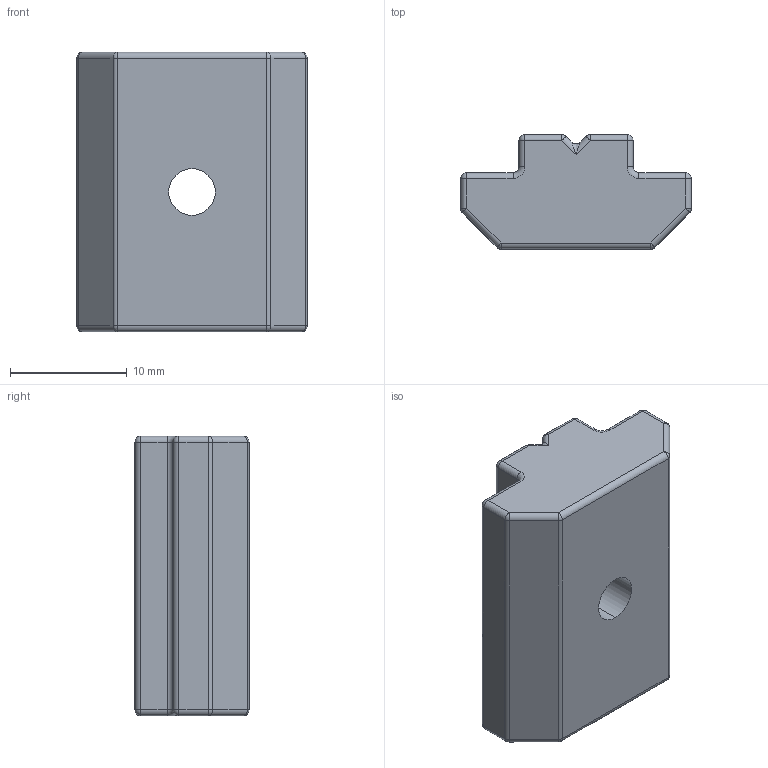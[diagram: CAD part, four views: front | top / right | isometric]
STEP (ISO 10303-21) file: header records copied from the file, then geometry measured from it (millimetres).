
FILE_DESCRIPTION (( 'STEP AP203' ), '1' );
FILE_NAME ('5072.STEP', '2016-04-22T17:20:15', ( '' ), ( '' ), 'SwSTEP 2.0', 'SolidWorks 2014', '' );
FILE_SCHEMA (( 'CONFIG_CONTROL_DESIGN' ));
Length unit declared in the file: millimetre
Products named in the file (1): 5072
Bounding box: 19.8 x 9.8 x 24 mm (x, y, z)
Volume: 3465 mm3; surface area: 1679 mm2
Topology: 1 solids, 1 shells, 87 faces, 202 edges, 98 vertices
Faces by surface type: cylinder 44, sphere 20, plane 17, torus 4, bspline 2
Entity records: 2411 total; most frequent: CARTESIAN_POINT 480, DIRECTION 422, ORIENTED_EDGE 368, EDGE_CURVE 184, AXIS2_PLACEMENT_3D 168, VERTEX_POINT 98, EDGE_LOOP 88, FACE_OUTER_BOUND 87
